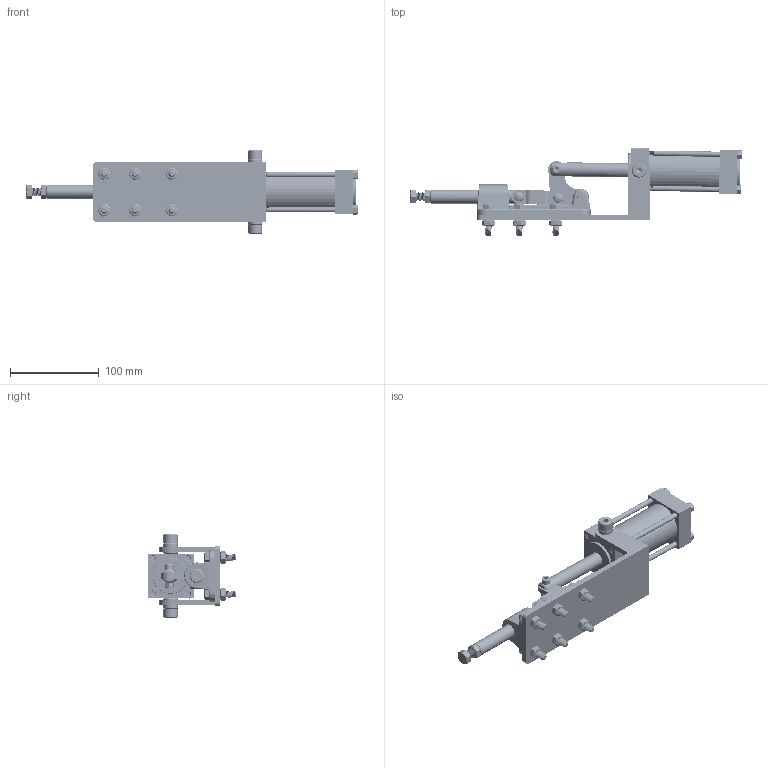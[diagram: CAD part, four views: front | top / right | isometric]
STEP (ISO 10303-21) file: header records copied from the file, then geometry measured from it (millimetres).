
FILE_DESCRIPTION(/* description */ ('STEP AP203'),/* implementation_level */ '2;1');
FILE_NAME(/* name */ 'D:\Vault_2016\Projekty\STRONA\Pneumatic toggle clamp\CH-36330-A\CH-36330-A_ZAMKNIETY.stp',/* time_stamp */ '2019-01-29T12:08:19+01:00',/* author */ ('user'),/* organization */ ('Î¢ÈíÖÐ¹ú'),/* preprocessor_version */ 'ST-DEVELOPER v17.2',/* originating_system */ 'Autodesk Inventor 2019',/* authorisation */ '');
FILE_SCHEMA (('AUTOMOTIVE_DESIGN { 1 0 10303 214 3 1 1 }'));
Products named in the file (20): CH-36330-A_ZAMKNIETY; M6-20_Ä¬ÈÏ; CH-36330-04_Ä¬ÈÏ; M10_Ä¬ÈÏ; Air cylinder-2_Ä¬ÈÏ; CH-36330-01_Ä¬ÈÏ; 22RIVET_Ä¬ÈÏ; M10-50_Ä¬ÈÏ; CH-36330-02_Ä¬ÈÏ; CH-36330-A-04_Ä¬ÈÏ; CH-36330-A-03_Ä¬ÈÏ; M6NUT_Ä¬ÈÏ; CH-36330-A-01_Ä¬ÈÏ_°´¼Ó
¹¤_; CH-36330-06_Ä¬ÈÏ; Air cylinder-1_Ä¬ÈÏ; 25RIVET_Ä¬ÈÏ; M10-20_Ä¬ÈÏ; M8-20_Ä¬ÈÏ; Air cylinder-3_Ä¬ÈÏ; M8_Ä¬ÈÏ
Assembly tree (34 placements, depth 2):
  CH-36330-A_ZAMKNIETY
    M8_Ä¬ÈÏ  x6
    M10-20_Ä¬ÈÏ  x2
    M6-20_Ä¬ÈÏ
    CH-36330-A-03_Ä¬ÈÏ  x2
    Air cylinder-3_Ä¬ÈÏ  x4
    M8-20_Ä¬ÈÏ  x6
    CH-36330-04_Ä¬ÈÏ
    M10_Ä¬ÈÏ
    Air cylinder-2_Ä¬ÈÏ
    CH-36330-01_Ä¬ÈÏ
    22RIVET_Ä¬ÈÏ
    M10-50_Ä¬ÈÏ
    CH-36330-02_Ä¬ÈÏ
    CH-36330-A-04_Ä¬ÈÏ
    M6NUT_Ä¬ÈÏ
    CH-36330-A-01_Ä¬ÈÏ_°´¼Ó
¹¤_
    CH-36330-06_Ä¬ÈÏ
    Air cylinder-1_Ä¬ÈÏ
    25RIVET_Ä¬ÈÏ
Bounding box: 374.17 x 98.66 x 94 mm (x, y, z)
Volume: 483330 mm3; surface area: 164625 mm2
Topology: 37 solids, 37 shells, 840 faces, 2427 edges, 1701 vertices
Faces by surface type: plane 402, cylinder 194, bspline 134, cone 89, torus 19, sphere 2
Full cylindrical faces by diameter (mm): 6 x13, 6.1 x4, 6.2 x3, 6.5 x24, 6.6 x2, 7.364 x1, 7.94 x1, 8 x11, 8.05 x1, 8.4 x2, 8.7 x12, 10 x25, 11 x2, 15.6 x2, 16 x6, 16.1 x2, 40 x2, 45 x1
Entity records: 51246 total; most frequent: CARTESIAN_POINT 35404, ORIENTED_EDGE 3440, DIRECTION 2715, EDGE_CURVE 1720, VERTEX_POINT 1207, AXIS2_PLACEMENT_3D 982, LINE 751, VECTOR 751
